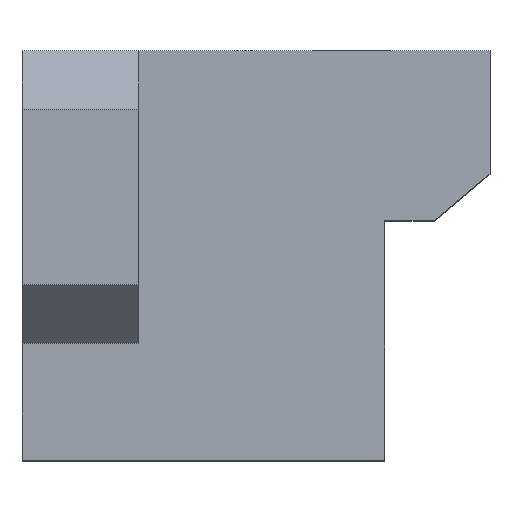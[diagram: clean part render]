
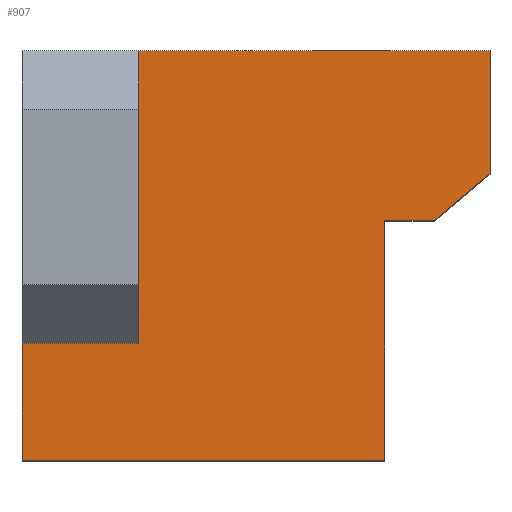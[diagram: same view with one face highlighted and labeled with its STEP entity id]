
A CAD part, top view. The second image highlights one B-rep face of the part: STEP entity #907.
In plain terms, the highlighted planar face has unit normal (0, 0, 1).
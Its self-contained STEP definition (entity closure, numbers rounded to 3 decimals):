
#14 = LINE ( 'NONE', #824, #1808 ) ;
#28 = CARTESIAN_POINT ( 'NONE',  ( -10., -7.5, 20. ) ) ;
#31 = CARTESIAN_POINT ( 'NONE',  ( 20., 7., 20. ) ) ;
#33 = LINE ( 'NONE', #1942, #886 ) ;
#43 = ORIENTED_EDGE ( 'NONE', *, *, #54, .T. ) ;
#54 = EDGE_CURVE ( 'NONE', #1103, #901, #822, .T. ) ;
#123 = AXIS2_PLACEMENT_3D ( 'NONE', #1469, #267, #1009 ) ;
#152 = EDGE_CURVE ( 'NONE', #826, #316, #1402, .T. ) ;
#169 = LINE ( 'NONE', #1975, #1186 ) ;
#250 = EDGE_CURVE ( 'NONE', #316, #461, #2110, .T. ) ;
#259 = CARTESIAN_POINT ( 'NONE',  ( 15.233, 3., 20. ) ) ;
#267 = DIRECTION ( 'NONE',  ( 0., 0., 1. ) ) ;
#288 = DIRECTION ( 'NONE',  ( -1., 0., 0. ) ) ;
#296 = CARTESIAN_POINT ( 'NONE',  ( -20., 17.5, 20. ) ) ;
#316 = VERTEX_POINT ( 'NONE', #1730 ) ;
#318 = EDGE_CURVE ( 'NONE', #1263, #461, #33, .T. ) ;
#324 = LINE ( 'NONE', #296, #436 ) ;
#342 = VERTEX_POINT ( 'NONE', #1769 ) ;
#421 = CARTESIAN_POINT ( 'NONE',  ( -10., 17.5, 20. ) ) ;
#436 = VECTOR ( 'NONE', #811, 1000. ) ;
#461 = VERTEX_POINT ( 'NONE', #1052 ) ;
#492 = DIRECTION ( 'NONE',  ( 1., 0., 0. ) ) ;
#546 = LINE ( 'NONE', #28, #724 ) ;
#565 = EDGE_CURVE ( 'NONE', #826, #1161, #1646, .T. ) ;
#580 = EDGE_CURVE ( 'NONE', #1161, #633, #1023, .T. ) ;
#601 = PLANE ( 'NONE',  #123 ) ;
#633 = VERTEX_POINT ( 'NONE', #1848 ) ;
#649 = DIRECTION ( 'NONE',  ( 0., -1., 0. ) ) ;
#682 = ORIENTED_EDGE ( 'NONE', *, *, #1529, .T. ) ;
#707 = DIRECTION ( 'NONE',  ( -1., 0., 0. ) ) ;
#724 = VECTOR ( 'NONE', #707, 1000. ) ;
#811 = DIRECTION ( 'NONE',  ( 0., -1., 0. ) ) ;
#822 = LINE ( 'NONE', #1754, #1633 ) ;
#824 = CARTESIAN_POINT ( 'NONE',  ( -20., 17.5, 20. ) ) ;
#826 = VERTEX_POINT ( 'NONE', #259 ) ;
#845 = CARTESIAN_POINT ( 'NONE',  ( 20., 17.5, 20. ) ) ;
#886 = VECTOR ( 'NONE', #492, 1000. ) ;
#901 = VERTEX_POINT ( 'NONE', #1251 ) ;
#907 = ADVANCED_FACE ( 'NONE', ( #1535 ), #601, .T. ) ;
#912 = DIRECTION ( 'NONE',  ( 0., -1., 0. ) ) ;
#965 = ORIENTED_EDGE ( 'NONE', *, *, #250, .F. ) ;
#1009 = DIRECTION ( 'NONE',  ( 1., 0., 0. ) ) ;
#1023 = LINE ( 'NONE', #845, #1839 ) ;
#1052 = CARTESIAN_POINT ( 'NONE',  ( 11., -17.5, 20. ) ) ;
#1065 = EDGE_LOOP ( 'NONE', ( #1559, #2058, #1611, #2227, #43, #1463, #682, #1250, #2075, #965 ) ) ;
#1103 = VERTEX_POINT ( 'NONE', #421 ) ;
#1109 = VECTOR ( 'NONE', #1915, 1000. ) ;
#1161 = VERTEX_POINT ( 'NONE', #31 ) ;
#1186 = VECTOR ( 'NONE', #649, 1000. ) ;
#1188 = DIRECTION ( 'NONE',  ( 0., 1., 0. ) ) ;
#1195 = CARTESIAN_POINT ( 'NONE',  ( 4.817, -5.74, 20. ) ) ;
#1250 = ORIENTED_EDGE ( 'NONE', *, *, #1756, .T. ) ;
#1251 = CARTESIAN_POINT ( 'NONE',  ( -10., 2.5, 20. ) ) ;
#1263 = VERTEX_POINT ( 'NONE', #1438 ) ;
#1281 = CARTESIAN_POINT ( 'NONE',  ( -10., -7.5, 20. ) ) ;
#1354 = VERTEX_POINT ( 'NONE', #1281 ) ;
#1402 = LINE ( 'NONE', #2169, #1109 ) ;
#1427 = VECTOR ( 'NONE', #1891, 1000. ) ;
#1438 = CARTESIAN_POINT ( 'NONE',  ( -20., -17.5, 20. ) ) ;
#1463 = ORIENTED_EDGE ( 'NONE', *, *, #1785, .T. ) ;
#1469 = CARTESIAN_POINT ( 'NONE',  ( 0., 0., 20. ) ) ;
#1525 = DIRECTION ( 'NONE',  ( 0., -1., 0. ) ) ;
#1529 = EDGE_CURVE ( 'NONE', #1354, #342, #546, .T. ) ;
#1535 = FACE_OUTER_BOUND ( 'NONE', #1065, .T. ) ;
#1559 = ORIENTED_EDGE ( 'NONE', *, *, #152, .F. ) ;
#1611 = ORIENTED_EDGE ( 'NONE', *, *, #580, .T. ) ;
#1633 = VECTOR ( 'NONE', #912, 1000. ) ;
#1646 = LINE ( 'NONE', #1195, #1427 ) ;
#1730 = CARTESIAN_POINT ( 'NONE',  ( 11., 3., 20. ) ) ;
#1754 = CARTESIAN_POINT ( 'NONE',  ( -10., 17.5, 20. ) ) ;
#1756 = EDGE_CURVE ( 'NONE', #342, #1263, #324, .T. ) ;
#1769 = CARTESIAN_POINT ( 'NONE',  ( -20., -7.5, 20. ) ) ;
#1785 = EDGE_CURVE ( 'NONE', #901, #1354, #169, .T. ) ;
#1808 = VECTOR ( 'NONE', #288, 1000. ) ;
#1839 = VECTOR ( 'NONE', #1188, 1000. ) ;
#1848 = CARTESIAN_POINT ( 'NONE',  ( 20., 17.5, 20. ) ) ;
#1891 = DIRECTION ( 'NONE',  ( 0.766, 0.643, 0. ) ) ;
#1915 = DIRECTION ( 'NONE',  ( -1., 0., 0. ) ) ;
#1938 = CARTESIAN_POINT ( 'NONE',  ( 11., -17.5, 20. ) ) ;
#1942 = CARTESIAN_POINT ( 'NONE',  ( -20., -17.5, 20. ) ) ;
#1975 = CARTESIAN_POINT ( 'NONE',  ( -10., 17.5, 20. ) ) ;
#2058 = ORIENTED_EDGE ( 'NONE', *, *, #565, .T. ) ;
#2075 = ORIENTED_EDGE ( 'NONE', *, *, #318, .T. ) ;
#2080 = VECTOR ( 'NONE', #1525, 1000. ) ;
#2110 = LINE ( 'NONE', #1938, #2080 ) ;
#2169 = CARTESIAN_POINT ( 'NONE',  ( 20., 3., 20. ) ) ;
#2184 = EDGE_CURVE ( 'NONE', #633, #1103, #14, .T. ) ;
#2227 = ORIENTED_EDGE ( 'NONE', *, *, #2184, .T. ) ;
